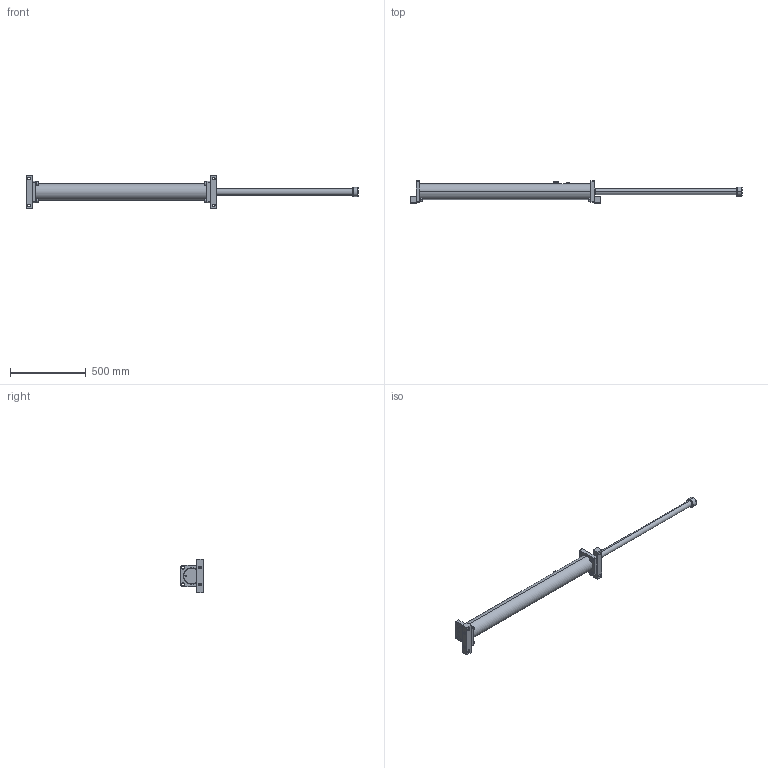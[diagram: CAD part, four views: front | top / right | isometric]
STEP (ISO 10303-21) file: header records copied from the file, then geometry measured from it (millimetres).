
FILE_DESCRIPTION (( 'STEP AP214' ), '1' );
FILE_NAME ('LDD2.0X36.STEP', '2019-01-16T06:35:48', ( 'user' ), ( 'Microsoft' ), 'SwSTEP 2.0', 'SolidWorks 2016', '' );
FILE_SCHEMA (( 'AUTOMOTIVE_DESIGN' ));
Length unit declared in the file: inch
Products named in the file (1): LDD2.0X36
Bounding box: 2191 x 145.5 x 220 mm (x, y, z)
Surface area: 737732 mm2 (no closed solid volume)
Topology: 0 solids, 25 shells, 258 faces, 686 edges, 460 vertices
Faces by surface type: plane 96, cylinder 75, cone 57, bspline 30
Entity records: 13594 total; most frequent: CARTESIAN_POINT 7262, DIRECTION 1322, ORIENTED_EDGE 1208, EDGE_CURVE 686, AXIS2_PLACEMENT_3D 510, VERTEX_POINT 460, EDGE_LOOP 315, LINE 302
